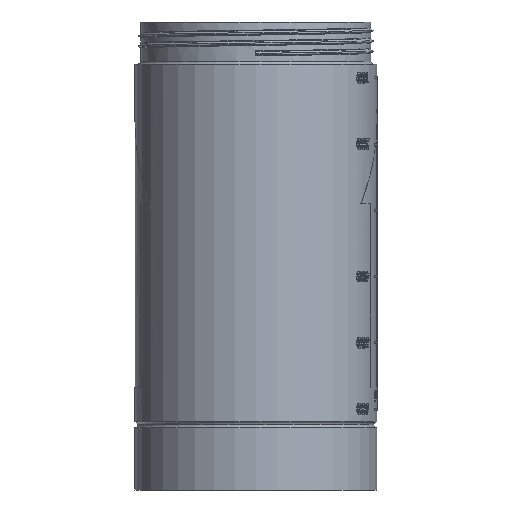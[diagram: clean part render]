
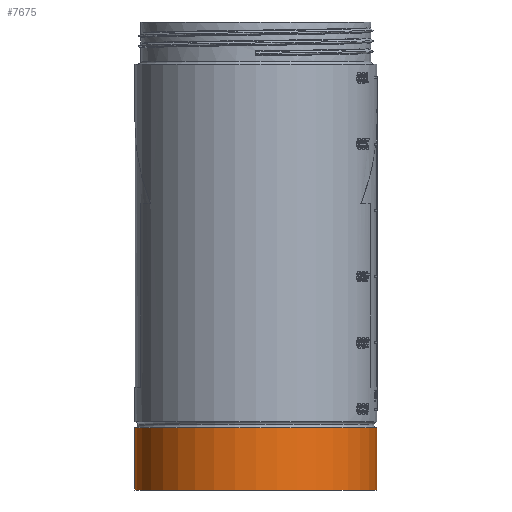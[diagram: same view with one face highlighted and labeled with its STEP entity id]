
A CAD part, front view. The second image highlights one B-rep face of the part: STEP entity #7675.
In plain terms, the highlighted cylindrical face has radius 41.361 mm (diameter 82.722 mm), a partial arc.
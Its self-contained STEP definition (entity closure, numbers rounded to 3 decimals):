
#5128=CYLINDRICAL_SURFACE('',#16453,41.361);
#5336=LINE('',#20271,#5999);
#5337=LINE('',#20273,#6000);
#5999=VECTOR('',#17372,1.);
#6000=VECTOR('',#17375,1.);
#7675=ADVANCED_FACE('',(#8342),#5128,.T.);
#8342=FACE_OUTER_BOUND('',#8967,.T.);
#8967=EDGE_LOOP('',(#9749,#9750,#9751,#9752));
#9749=ORIENTED_EDGE('',*,*,#14362,.T.);
#9750=ORIENTED_EDGE('',*,*,#14363,.F.);
#9751=ORIENTED_EDGE('',*,*,#14364,.F.);
#9752=ORIENTED_EDGE('',*,*,#14365,.T.);
#13159=VERTEX_POINT('',#19926);
#13160=VERTEX_POINT('',#19928);
#13204=VERTEX_POINT('',#20269);
#13205=VERTEX_POINT('',#20270);
#14362=EDGE_CURVE('',#13204,#13205,#16051,.T.);
#14363=EDGE_CURVE('',#13159,#13205,#5336,.T.);
#14364=EDGE_CURVE('',#13160,#13159,#16052,.T.);
#14365=EDGE_CURVE('',#13160,#13204,#5337,.T.);
#16051=CIRCLE('',#16451,41.361);
#16052=CIRCLE('',#16452,41.361);
#16451=AXIS2_PLACEMENT_3D('',#20268,#17370,#17371);
#16452=AXIS2_PLACEMENT_3D('',#20272,#17373,#17374);
#16453=AXIS2_PLACEMENT_3D('',#20274,#17376,#17377);
#17370=DIRECTION('',(0.,0.,1.));
#17371=DIRECTION('',(-1.,0.,0.));
#17372=DIRECTION('',(0.,0.,-1.));
#17373=DIRECTION('',(0.,0.,1.));
#17374=DIRECTION('',(-1.,0.,0.));
#17375=DIRECTION('',(0.,0.,-1.));
#17376=DIRECTION('',(0.,0.,1.));
#17377=DIRECTION('',(1.,0.,0.));
#19926=CARTESIAN_POINT('',(41.361,60.,21.315));
#19928=CARTESIAN_POINT('',(-41.361,60.,21.315));
#20268=CARTESIAN_POINT('',(0.,60.,0.));
#20269=CARTESIAN_POINT('',(-41.361,60.,0.));
#20270=CARTESIAN_POINT('',(41.361,60.,0.));
#20271=CARTESIAN_POINT('',(41.361,60.,210.054));
#20272=CARTESIAN_POINT('',(0.,60.,21.315));
#20273=CARTESIAN_POINT('',(-41.361,60.,210.054));
#20274=CARTESIAN_POINT('',(0.,60.,210.054));
